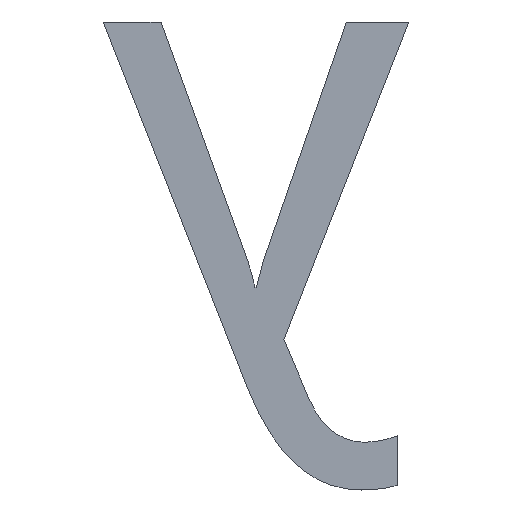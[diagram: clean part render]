
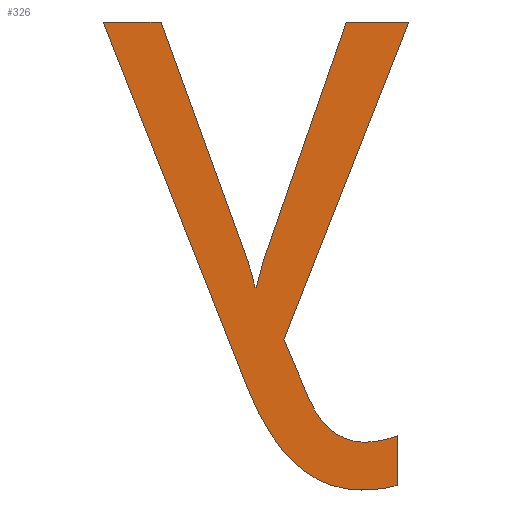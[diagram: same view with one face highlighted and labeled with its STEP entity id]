
A CAD part, top view. The second image highlights one B-rep face of the part: STEP entity #326.
In plain terms, the highlighted planar face has unit normal (0, 0, 1).
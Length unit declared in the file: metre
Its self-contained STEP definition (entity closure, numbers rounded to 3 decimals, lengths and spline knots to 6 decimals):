
#17=CIRCLE('',#459,0.000017);
#18=CIRCLE('',#460,0.000012);
#19=CIRCLE('',#461,0.000037);
#23=B_SPLINE_CURVE_WITH_KNOTS('',3,(#556,#557,#558,#559),.UNSPECIFIED.,
 .F.,.F.,(4,4),(1.,2.),.UNSPECIFIED.);
#24=B_SPLINE_CURVE_WITH_KNOTS('',3,(#567,#568,#569,#570),.UNSPECIFIED.,
 .F.,.F.,(4,4),(5.,6.),.UNSPECIFIED.);
#27=ORIENTED_EDGE('',*,*,#117,.F.);
#28=ORIENTED_EDGE('',*,*,#118,.F.);
#29=ORIENTED_EDGE('',*,*,#119,.F.);
#30=ORIENTED_EDGE('',*,*,#120,.F.);
#31=ORIENTED_EDGE('',*,*,#121,.F.);
#32=ORIENTED_EDGE('',*,*,#122,.F.);
#33=ORIENTED_EDGE('',*,*,#123,.F.);
#34=ORIENTED_EDGE('',*,*,#124,.F.);
#35=ORIENTED_EDGE('',*,*,#125,.F.);
#36=ORIENTED_EDGE('',*,*,#126,.F.);
#37=ORIENTED_EDGE('',*,*,#127,.F.);
#38=ORIENTED_EDGE('',*,*,#128,.F.);
#39=ORIENTED_EDGE('',*,*,#129,.F.);
#40=ORIENTED_EDGE('',*,*,#130,.F.);
#41=ORIENTED_EDGE('',*,*,#131,.F.);
#117=EDGE_CURVE('',#162,#163,#192,.T.);
#118=EDGE_CURVE('',#164,#162,#193,.T.);
#119=EDGE_CURVE('',#165,#164,#23,.T.);
#120=EDGE_CURVE('',#166,#165,#17,.T.);
#121=EDGE_CURVE('',#167,#166,#194,.T.);
#122=EDGE_CURVE('',#168,#167,#18,.T.);
#123=EDGE_CURVE('',#169,#168,#24,.T.);
#124=EDGE_CURVE('',#170,#169,#195,.T.);
#125=EDGE_CURVE('',#171,#170,#196,.T.);
#126=EDGE_CURVE('',#172,#171,#197,.T.);
#127=EDGE_CURVE('',#173,#172,#198,.T.);
#128=EDGE_CURVE('',#174,#173,#199,.T.);
#129=EDGE_CURVE('',#175,#174,#200,.T.);
#130=EDGE_CURVE('',#176,#175,#19,.T.);
#131=EDGE_CURVE('',#163,#176,#201,.T.);
#162=VERTEX_POINT('',#552);
#163=VERTEX_POINT('',#553);
#164=VERTEX_POINT('',#555);
#165=VERTEX_POINT('',#560);
#166=VERTEX_POINT('',#562);
#167=VERTEX_POINT('',#564);
#168=VERTEX_POINT('',#566);
#169=VERTEX_POINT('',#571);
#170=VERTEX_POINT('',#573);
#171=VERTEX_POINT('',#575);
#172=VERTEX_POINT('',#577);
#173=VERTEX_POINT('',#579);
#174=VERTEX_POINT('',#581);
#175=VERTEX_POINT('',#583);
#176=VERTEX_POINT('',#585);
#192=LINE('',#551,#227);
#193=LINE('',#554,#228);
#194=LINE('',#563,#229);
#195=LINE('',#572,#230);
#196=LINE('',#574,#231);
#197=LINE('',#576,#232);
#198=LINE('',#578,#233);
#199=LINE('',#580,#234);
#200=LINE('',#582,#235);
#201=LINE('',#586,#236);
#227=VECTOR('',#480,1.);
#228=VECTOR('',#481,1.);
#229=VECTOR('',#484,1.);
#230=VECTOR('',#487,1.);
#231=VECTOR('',#488,1.);
#232=VECTOR('',#489,1.);
#233=VECTOR('',#490,1.);
#234=VECTOR('',#491,1.);
#235=VECTOR('',#492,1.);
#236=VECTOR('',#495,1.);
#262=EDGE_LOOP('',(#27,#28,#29,#30,#31,#32,#33,#34,#35,#36,#37,#38,#39,
#40,#41));
#279=FACE_BOUND('',#262,.T.);
#296=PLANE('',#458);
#326=ADVANCED_FACE('',(#279),#296,.F.);
#458=AXIS2_PLACEMENT_3D('',#550,#478,#479);
#459=AXIS2_PLACEMENT_3D('',#561,#482,#483);
#460=AXIS2_PLACEMENT_3D('',#565,#485,#486);
#461=AXIS2_PLACEMENT_3D('',#584,#493,#494);
#478=DIRECTION('',(0.,0.,-1.));
#479=DIRECTION('',(0.,1.,0.));
#480=DIRECTION('',(1.,0.,0.));
#481=DIRECTION('',(-0.367,0.93,0.));
#482=DIRECTION('',(0.,0.,-1.));
#483=DIRECTION('',(0.265,-0.964,0.));
#484=DIRECTION('',(0.,-1.,0.));
#485=DIRECTION('',(0.,0.,1.));
#486=DIRECTION('',(0.009,-1.,0.));
#487=DIRECTION('',(0.39,-0.921,0.));
#488=DIRECTION('',(-0.366,-0.931,0.));
#489=DIRECTION('',(1.,0.,0.));
#490=DIRECTION('',(0.328,0.945,0.));
#491=DIRECTION('',(0.252,0.968,0.));
#492=DIRECTION('',(1.,0.,0.));
#493=DIRECTION('',(0.,0.,-1.));
#494=DIRECTION('',(0.953,0.303,0.));
#495=DIRECTION('',(0.341,-0.94,0.));
#550=CARTESIAN_POINT('',(-0.098073,-0.011636,0.006263));
#551=CARTESIAN_POINT('',(-0.098091,-0.011576,0.006263));
#552=CARTESIAN_POINT('',(-0.098099,-0.011576,0.006263));
#553=CARTESIAN_POINT('',(-0.098091,-0.011576,0.006263));
#554=CARTESIAN_POINT('',(-0.098099,-0.011576,0.006263));
#555=CARTESIAN_POINT('',(-0.098079,-0.011626,0.006263));
#556=CARTESIAN_POINT('',(-0.098064,-0.011639,0.006263));
#557=CARTESIAN_POINT('',(-0.098071,-0.011639,0.006263));
#558=CARTESIAN_POINT('',(-0.098076,-0.011635,0.006263));
#559=CARTESIAN_POINT('',(-0.098079,-0.011626,0.006263));
#560=CARTESIAN_POINT('',(-0.098064,-0.011639,0.006263));
#561=CARTESIAN_POINT('',(-0.098064,-0.011622,0.006263));
#562=CARTESIAN_POINT('',(-0.098059,-0.011639,0.006263));
#563=CARTESIAN_POINT('',(-0.098059,-0.011639,0.006263));
#564=CARTESIAN_POINT('',(-0.098059,-0.011632,0.006263));
#565=CARTESIAN_POINT('',(-0.098064,-0.011621,0.006263));
#566=CARTESIAN_POINT('',(-0.098063,-0.011633,0.006263));
#567=CARTESIAN_POINT('',(-0.098071,-0.011627,0.006263));
#568=CARTESIAN_POINT('',(-0.098069,-0.011631,0.006263));
#569=CARTESIAN_POINT('',(-0.098067,-0.011633,0.006263));
#570=CARTESIAN_POINT('',(-0.098063,-0.011633,0.006263));
#571=CARTESIAN_POINT('',(-0.098071,-0.011627,0.006263));
#572=CARTESIAN_POINT('',(-0.098071,-0.011627,0.006263));
#573=CARTESIAN_POINT('',(-0.098075,-0.011619,0.006263));
#574=CARTESIAN_POINT('',(-0.098075,-0.011619,0.006263));
#575=CARTESIAN_POINT('',(-0.098058,-0.011576,0.006263));
#576=CARTESIAN_POINT('',(-0.098058,-0.011576,0.006263));
#577=CARTESIAN_POINT('',(-0.098066,-0.011576,0.006263));
#578=CARTESIAN_POINT('',(-0.098066,-0.011576,0.006263));
#579=CARTESIAN_POINT('',(-0.098077,-0.011608,0.006263));
#580=CARTESIAN_POINT('',(-0.098077,-0.011608,0.006263));
#581=CARTESIAN_POINT('',(-0.098078,-0.011612,0.006263));
#582=CARTESIAN_POINT('',(-0.098078,-0.011612,0.006263));
#583=CARTESIAN_POINT('',(-0.098078,-0.011612,0.006263));
#584=CARTESIAN_POINT('',(-0.098115,-0.01162,0.006263));
#585=CARTESIAN_POINT('',(-0.098079,-0.011608,0.006263));
#586=CARTESIAN_POINT('',(-0.098079,-0.011608,0.006263));
